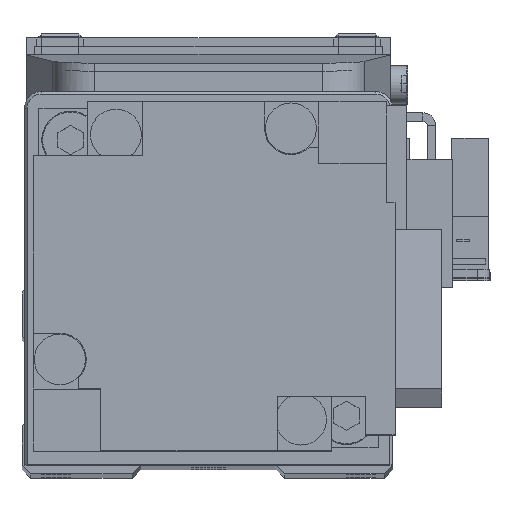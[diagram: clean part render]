
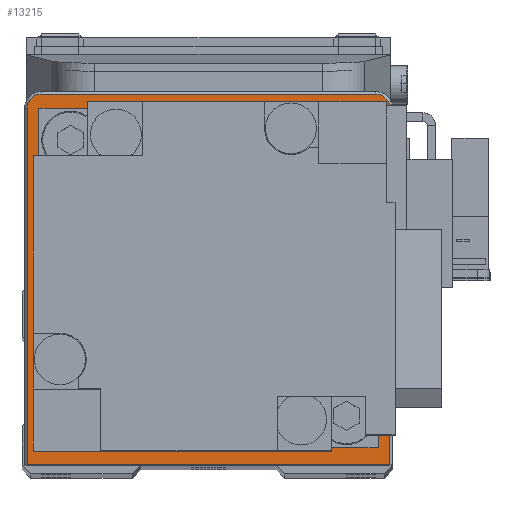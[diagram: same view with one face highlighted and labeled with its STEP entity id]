
A CAD part, top view. The second image highlights one B-rep face of the part: STEP entity #13215.
In plain terms, the highlighted planar face has unit normal (0, 0, 1).
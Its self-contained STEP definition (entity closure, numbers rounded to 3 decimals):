
#866 = ORIENTED_EDGE ( 'NONE', *, *, #19779, .T. ) ;
#895 = ORIENTED_EDGE ( 'NONE', *, *, #21546, .F. ) ;
#6860 = VERTEX_POINT ( 'NONE', #10877 ) ;
#8108 = EDGE_CURVE ( 'NONE', #29463, #73525, #11079, .T. ) ;
#8885 = DIRECTION ( 'NONE',  ( 0., -1., 0. ) ) ;
#10343 = CARTESIAN_POINT ( 'NONE',  ( -10., 15.026, 209. ) ) ;
#10877 = CARTESIAN_POINT ( 'NONE',  ( 19.7, 36.726, 209. ) ) ;
#11079 = LINE ( 'NONE', #77915, #25959 ) ;
#11259 = DIRECTION ( 'NONE',  ( 1., 0., 0. ) ) ;
#11750 = CIRCLE ( 'NONE', #25325, 10. ) ;
#12772 = CARTESIAN_POINT ( 'NONE',  ( 10., 15.026, 209. ) ) ;
#13215 = ADVANCED_FACE ( 'NONE', ( #66375, #18609 ), #48755, .T. ) ;
#14205 = ORIENTED_EDGE ( 'NONE', *, *, #50687, .T. ) ;
#15330 = CARTESIAN_POINT ( 'NONE',  ( 0., 15.026, 209. ) ) ;
#15881 = DIRECTION ( 'NONE',  ( 1., 0., 0. ) ) ;
#18609 = FACE_BOUND ( 'NONE', #82652, .T. ) ;
#18953 = VECTOR ( 'NONE', #37074, 1000. ) ;
#18957 = DIRECTION ( 'NONE',  ( 0., 0., 1. ) ) ;
#19779 = EDGE_CURVE ( 'NONE', #73525, #75660, #57994, .T. ) ;
#20076 = VECTOR ( 'NONE', #69726, 1000. ) ;
#21546 = EDGE_CURVE ( 'NONE', #33571, #46277, #69411, .T. ) ;
#22016 = AXIS2_PLACEMENT_3D ( 'NONE', #25022, #18957, #44011 ) ;
#23680 = CARTESIAN_POINT ( 'NONE',  ( 0., 15.026, 209. ) ) ;
#25022 = CARTESIAN_POINT ( 'NONE',  ( 0., 15.026, 209. ) ) ;
#25325 = AXIS2_PLACEMENT_3D ( 'NONE', #15330, #53158, #15881 ) ;
#25959 = VECTOR ( 'NONE', #8885, 1000. ) ;
#26384 = DIRECTION ( 'NONE',  ( 0., 0., 1. ) ) ;
#29463 = VERTEX_POINT ( 'NONE', #59719 ) ;
#33571 = VERTEX_POINT ( 'NONE', #12772 ) ;
#33835 = AXIS2_PLACEMENT_3D ( 'NONE', #66665, #53839, #53568 ) ;
#35145 = EDGE_CURVE ( 'NONE', #74730, #6860, #72214, .T. ) ;
#36263 = DIRECTION ( 'NONE',  ( 1., 0., 0. ) ) ;
#37074 = DIRECTION ( 'NONE',  ( 0., 1., 0. ) ) ;
#41821 = DIRECTION ( 'NONE',  ( 0., 0., 1. ) ) ;
#44011 = DIRECTION ( 'NONE',  ( 1., 0., 0. ) ) ;
#44276 = CARTESIAN_POINT ( 'NONE',  ( 21.4, 35.026, 209. ) ) ;
#44879 = ORIENTED_EDGE ( 'NONE', *, *, #58472, .F. ) ;
#44947 = ORIENTED_EDGE ( 'NONE', *, *, #8108, .T. ) ;
#45681 = EDGE_CURVE ( 'NONE', #57515, #29463, #74792, .T. ) ;
#46277 = VERTEX_POINT ( 'NONE', #10343 ) ;
#48755 = PLANE ( 'NONE',  #79919 ) ;
#50450 = CARTESIAN_POINT ( 'NONE',  ( 21.4, 35.026, 209. ) ) ;
#50592 = ORIENTED_EDGE ( 'NONE', *, *, #45681, .T. ) ;
#50687 = EDGE_CURVE ( 'NONE', #75660, #74730, #58749, .T. ) ;
#50886 = ORIENTED_EDGE ( 'NONE', *, *, #75944, .T. ) ;
#53158 = DIRECTION ( 'NONE',  ( 0., 0., 1. ) ) ;
#53568 = DIRECTION ( 'NONE',  ( 1., 0., 0. ) ) ;
#53839 = DIRECTION ( 'NONE',  ( 0., 0., 1. ) ) ;
#57515 = VERTEX_POINT ( 'NONE', #77429 ) ;
#57994 = LINE ( 'NONE', #69140, #62950 ) ;
#58472 = EDGE_CURVE ( 'NONE', #46277, #33571, #11750, .T. ) ;
#58749 = LINE ( 'NONE', #44276, #18953 ) ;
#58918 = ORIENTED_EDGE ( 'NONE', *, *, #35145, .T. ) ;
#59264 = AXIS2_PLACEMENT_3D ( 'NONE', #64255, #26384, #70922 ) ;
#59719 = CARTESIAN_POINT ( 'NONE',  ( -21.4, 35.026, 209. ) ) ;
#62950 = VECTOR ( 'NONE', #11259, 1000. ) ;
#63396 = CARTESIAN_POINT ( 'NONE',  ( -21.4, -6.974, 209. ) ) ;
#64255 = CARTESIAN_POINT ( 'NONE',  ( 19.7, 35.026, 209. ) ) ;
#66375 = FACE_OUTER_BOUND ( 'NONE', #69920, .T. ) ;
#66665 = CARTESIAN_POINT ( 'NONE',  ( -19.7, 35.026, 209. ) ) ;
#69140 = CARTESIAN_POINT ( 'NONE',  ( -21.7, -6.974, 209. ) ) ;
#69411 = CIRCLE ( 'NONE', #22016, 10. ) ;
#69726 = DIRECTION ( 'NONE',  ( -1., 0., 0. ) ) ;
#69920 = EDGE_LOOP ( 'NONE', ( #866, #14205, #58918, #50886, #50592, #44947 ) ) ;
#70922 = DIRECTION ( 'NONE',  ( 1., 0., 0. ) ) ;
#72214 = CIRCLE ( 'NONE', #59264, 1.7 ) ;
#72861 = CARTESIAN_POINT ( 'NONE',  ( 21.4, -6.974, 209. ) ) ;
#73525 = VERTEX_POINT ( 'NONE', #63396 ) ;
#74730 = VERTEX_POINT ( 'NONE', #50450 ) ;
#74792 = CIRCLE ( 'NONE', #33835, 1.7 ) ;
#74877 = LINE ( 'NONE', #76434, #20076 ) ;
#75660 = VERTEX_POINT ( 'NONE', #72861 ) ;
#75944 = EDGE_CURVE ( 'NONE', #6860, #57515, #74877, .T. ) ;
#76434 = CARTESIAN_POINT ( 'NONE',  ( -19.7, 36.726, 209. ) ) ;
#77429 = CARTESIAN_POINT ( 'NONE',  ( -19.7, 36.726, 209. ) ) ;
#77915 = CARTESIAN_POINT ( 'NONE',  ( -21.4, -6.974, 209. ) ) ;
#79919 = AXIS2_PLACEMENT_3D ( 'NONE', #23680, #41821, #36263 ) ;
#82652 = EDGE_LOOP ( 'NONE', ( #44879, #895 ) ) ;
